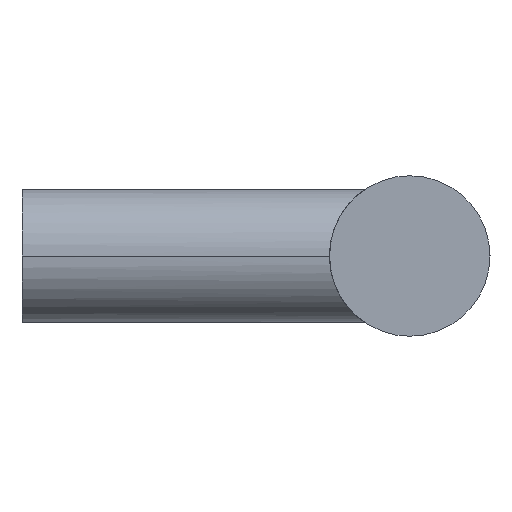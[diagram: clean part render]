
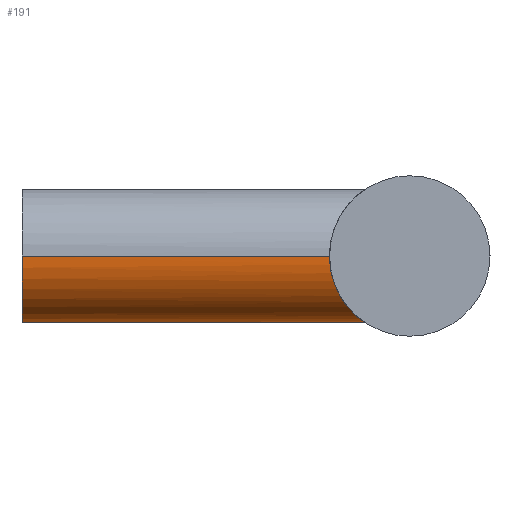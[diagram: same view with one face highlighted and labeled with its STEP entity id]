
A CAD part, left-side view. The second image highlights one B-rep face of the part: STEP entity #191.
In plain terms, the highlighted cylindrical face has radius 5 mm (diameter 10 mm), a partial arc.
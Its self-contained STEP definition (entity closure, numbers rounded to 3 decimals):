
#125 = VERTEX_POINT( '', #286 );
#157 = EDGE_CURVE( '', #203, #125, #323, .T. );
#165 = EDGE_CURVE( '', #169, #125, #332, .T. );
#169 = VERTEX_POINT( '', #336 );
#175 = VERTEX_POINT( '', #342 );
#189 = EDGE_CURVE( '', #203, #175, #359, .T. );
#191 = ADVANCED_FACE( '', ( #361 ), #362, .T. );
#195 = EDGE_CURVE( '', #169, #175, #366, .T. );
#203 = VERTEX_POINT( '', #377 );
#286 = CARTESIAN_POINT( '', ( 5., -23., 0. ) );
#323 = B_SPLINE_CURVE_WITH_KNOTS( '', 3, ( #576, #577, #578, #579, #580, #581, #582, #583, #584, #585, #586, #587, #588, #589, #590, #591, #592, #593, #594, #595, #596, #597, #598, #599, #600, #601, #602, #603, #604, #605, #606, #607, #608, #609 ), .UNSPECIFIED., .F., .F., ( 4, 2, 2, 2, 2, 2, 2, 2, 2, 2, 2, 2, 2, 2, 2, 2, 4 ), ( 8.161, 9.16, 10.159, 11.158, 12.157, 13.198, 14.239, 15.28, 16.322, 17.363, 18.404, 19.446, 20.487, 21.486, 22.485, 23.484, 24.483 ), .UNSPECIFIED. );
#332 = LINE( '', #621, #622 );
#336 = CARTESIAN_POINT( '', ( 5., 0., 0. ) );
#342 = CARTESIAN_POINT( '', ( -5., 0., 0. ) );
#359 = LINE( '', #672, #673 );
#361 = FACE_OUTER_BOUND( '', #675, .T. );
#362 = CYLINDRICAL_SURFACE( '', #676, 5. );
#366 = CIRCLE( '', #683, 5. );
#377 = CARTESIAN_POINT( '', ( -5., -23., 0. ) );
#576 = CARTESIAN_POINT( '', ( -5., -23., 0. ) );
#577 = CARTESIAN_POINT( '', ( -5., -23., -0.333 ) );
#578 = CARTESIAN_POINT( '', ( -4.966, -23.028, -0.672 ) );
#579 = CARTESIAN_POINT( '', ( -4.83, -23.141, -1.335 ) );
#580 = CARTESIAN_POINT( '', ( -4.728, -23.225, -1.659 ) );
#581 = CARTESIAN_POINT( '', ( -4.467, -23.437, -2.272 ) );
#582 = CARTESIAN_POINT( '', ( -4.306, -23.566, -2.561 ) );
#583 = CARTESIAN_POINT( '', ( -3.946, -23.847, -3.088 ) );
#584 = CARTESIAN_POINT( '', ( -3.745, -24., -3.326 ) );
#585 = CARTESIAN_POINT( '', ( -3.317, -24.311, -3.754 ) );
#586 = CARTESIAN_POINT( '', ( -3.073, -24.483, -3.957 ) );
#587 = CARTESIAN_POINT( '', ( -2.544, -24.825, -4.316 ) );
#588 = CARTESIAN_POINT( '', ( -2.259, -24.995, -4.472 ) );
#589 = CARTESIAN_POINT( '', ( -1.659, -25.301, -4.728 ) );
#590 = CARTESIAN_POINT( '', ( -1.343, -25.436, -4.828 ) );
#591 = CARTESIAN_POINT( '', ( -0.687, -25.627, -4.964 ) );
#592 = CARTESIAN_POINT( '', ( -0.347, -25.683, -5. ) );
#593 = CARTESIAN_POINT( '', ( 0.347, -25.683, -5. ) );
#594 = CARTESIAN_POINT( '', ( 0.687, -25.627, -4.964 ) );
#595 = CARTESIAN_POINT( '', ( 1.343, -25.436, -4.828 ) );
#596 = CARTESIAN_POINT( '', ( 1.659, -25.301, -4.728 ) );
#597 = CARTESIAN_POINT( '', ( 2.259, -24.995, -4.472 ) );
#598 = CARTESIAN_POINT( '', ( 2.544, -24.825, -4.316 ) );
#599 = CARTESIAN_POINT( '', ( 3.073, -24.483, -3.957 ) );
#600 = CARTESIAN_POINT( '', ( 3.317, -24.311, -3.754 ) );
#601 = CARTESIAN_POINT( '', ( 3.745, -24., -3.326 ) );
#602 = CARTESIAN_POINT( '', ( 3.946, -23.847, -3.088 ) );
#603 = CARTESIAN_POINT( '', ( 4.306, -23.566, -2.561 ) );
#604 = CARTESIAN_POINT( '', ( 4.467, -23.437, -2.272 ) );
#605 = CARTESIAN_POINT( '', ( 4.728, -23.225, -1.659 ) );
#606 = CARTESIAN_POINT( '', ( 4.83, -23.141, -1.335 ) );
#607 = CARTESIAN_POINT( '', ( 4.966, -23.028, -0.672 ) );
#608 = CARTESIAN_POINT( '', ( 5., -23., -0.333 ) );
#609 = CARTESIAN_POINT( '', ( 5., -23., 0. ) );
#621 = CARTESIAN_POINT( '', ( 5., 0., 0. ) );
#622 = VECTOR( '', #845, 1. );
#672 = CARTESIAN_POINT( '', ( -5., 0., 0. ) );
#673 = VECTOR( '', #869, 1. );
#675 = EDGE_LOOP( '', ( #871, #872, #873, #874 ) );
#676 = AXIS2_PLACEMENT_3D( '', #875, #876, #877 );
#683 = AXIS2_PLACEMENT_3D( '', #879, #880, #881 );
#845 = DIRECTION( '', ( 0., -1., 0. ) );
#869 = DIRECTION( '', ( 0., 1., 0. ) );
#871 = ORIENTED_EDGE( '', *, *, #165, .T. );
#872 = ORIENTED_EDGE( '', *, *, #157, .F. );
#873 = ORIENTED_EDGE( '', *, *, #189, .T. );
#874 = ORIENTED_EDGE( '', *, *, #195, .F. );
#875 = CARTESIAN_POINT( '', ( 0., 0., 0. ) );
#876 = DIRECTION( '', ( 0., 1., 0. ) );
#877 = DIRECTION( '', ( 1., 0., 0. ) );
#879 = CARTESIAN_POINT( '', ( 0., 0., 0. ) );
#880 = DIRECTION( '', ( 0., 1., 0. ) );
#881 = DIRECTION( '', ( 1., 0., 0. ) );
